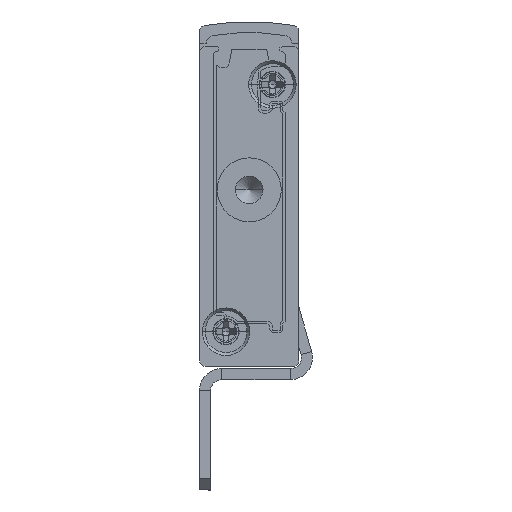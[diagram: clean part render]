
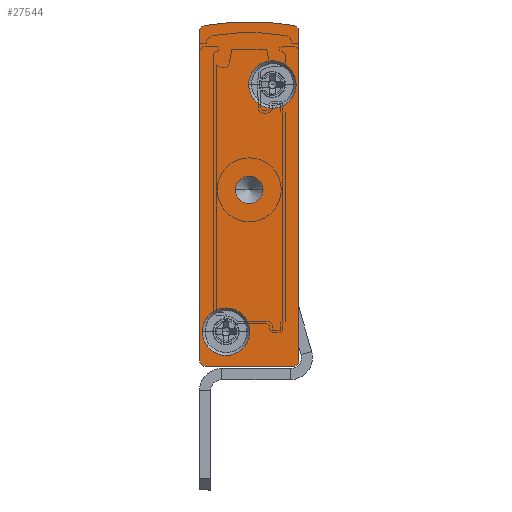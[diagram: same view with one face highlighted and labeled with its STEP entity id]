
A CAD part, front view. The second image highlights one B-rep face of the part: STEP entity #27544.
In plain terms, the highlighted planar face has unit normal (0, -1, 0).
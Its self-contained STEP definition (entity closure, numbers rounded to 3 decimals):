
#294 = CARTESIAN_POINT ( 'NONE',  ( -8.5, -2.5, 30.402 ) ) ;
#656 = CARTESIAN_POINT ( 'NONE',  ( -2.4, -2.5, 25.55 ) ) ;
#745 = EDGE_CURVE ( 'NONE', #33525, #13145, #36631, .T. ) ;
#791 = EDGE_CURVE ( 'NONE', #30130, #23964, #21107, .T. ) ;
#883 = CARTESIAN_POINT ( 'NONE',  ( -4.5, -2.5, 7.592 ) ) ;
#1101 = VECTOR ( 'NONE', #32769, 1000. ) ;
#1403 = CARTESIAN_POINT ( 'NONE',  ( -0.25, -2.5, 25.55 ) ) ;
#1749 = VERTEX_POINT ( 'NONE', #26748 ) ;
#2051 = EDGE_CURVE ( 'NONE', #1749, #7645, #24737, .T. ) ;
#2707 = ORIENTED_EDGE ( 'NONE', *, *, #3224, .F. ) ;
#2801 = ORIENTED_EDGE ( 'NONE', *, *, #2051, .F. ) ;
#2848 = DIRECTION ( 'NONE',  ( -1., 0., 0. ) ) ;
#3224 = EDGE_CURVE ( 'NONE', #7645, #4161, #37026, .T. ) ;
#3346 = EDGE_CURVE ( 'NONE', #7298, #37639, #32415, .T. ) ;
#3503 = CIRCLE ( 'NONE', #6938, 0.5 ) ;
#3514 = DIRECTION ( 'NONE',  ( 0., -1., 0. ) ) ;
#3664 = AXIS2_PLACEMENT_3D ( 'NONE', #34488, #10955, #20152 ) ;
#3764 = PLANE ( 'NONE',  #18415 ) ;
#4091 = AXIS2_PLACEMENT_3D ( 'NONE', #656, #26204, #20843 ) ;
#4161 = VERTEX_POINT ( 'NONE', #26468 ) ;
#4338 = ORIENTED_EDGE ( 'NONE', *, *, #3346, .F. ) ;
#5596 = EDGE_LOOP ( 'NONE', ( #8868, #36734 ) ) ;
#5602 = AXIS2_PLACEMENT_3D ( 'NONE', #8176, #28795, #37319 ) ;
#5640 = CIRCLE ( 'NONE', #19999, 2.15 ) ;
#6245 = CARTESIAN_POINT ( 'NONE',  ( -8.5, -2.5, 0. ) ) ;
#6598 = CARTESIAN_POINT ( 'NONE',  ( 0., -2.5, 30.402 ) ) ;
#6825 = CARTESIAN_POINT ( 'NONE',  ( -5.75, -2.5, 16. ) ) ;
#6890 = ORIENTED_EDGE ( 'NONE', *, *, #14394, .T. ) ;
#6938 = AXIS2_PLACEMENT_3D ( 'NONE', #24994, #19541, #23740 ) ;
#7217 = FACE_BOUND ( 'NONE', #35108, .T. ) ;
#7298 = VERTEX_POINT ( 'NONE', #6598 ) ;
#7645 = VERTEX_POINT ( 'NONE', #8525 ) ;
#8127 = CARTESIAN_POINT ( 'NONE',  ( -6.6, -2.5, 3.15 ) ) ;
#8176 = CARTESIAN_POINT ( 'NONE',  ( -6.6, -2.5, 3.15 ) ) ;
#8525 = CARTESIAN_POINT ( 'NONE',  ( -9., -2.5, 30.402 ) ) ;
#8868 = ORIENTED_EDGE ( 'NONE', *, *, #19866, .F. ) ;
#9026 = VERTEX_POINT ( 'NONE', #12347 ) ;
#9988 = EDGE_LOOP ( 'NONE', ( #12972, #37393 ) ) ;
#10734 = CARTESIAN_POINT ( 'NONE',  ( -4.55, -2.5, 25.55 ) ) ;
#10955 = DIRECTION ( 'NONE',  ( 0., 1., 0. ) ) ;
#11294 = DIRECTION ( 'NONE',  ( 0., 1., 0. ) ) ;
#11419 = EDGE_CURVE ( 'NONE', #4161, #9026, #12941, .T. ) ;
#11931 = CARTESIAN_POINT ( 'NONE',  ( 0., -2.5, 30.402 ) ) ;
#12347 = CARTESIAN_POINT ( 'NONE',  ( -0.408, -2.5, 30.893 ) ) ;
#12941 = CIRCLE ( 'NONE', #15813, 23.658 ) ;
#12972 = ORIENTED_EDGE ( 'NONE', *, *, #17841, .F. ) ;
#13145 = VERTEX_POINT ( 'NONE', #6825 ) ;
#13564 = AXIS2_PLACEMENT_3D ( 'NONE', #26322, #23225, #34809 ) ;
#14368 = ORIENTED_EDGE ( 'NONE', *, *, #29637, .F. ) ;
#14394 = EDGE_CURVE ( 'NONE', #13145, #33525, #28129, .T. ) ;
#14558 = DIRECTION ( 'NONE',  ( 0., 1., 0. ) ) ;
#14807 = ORIENTED_EDGE ( 'NONE', *, *, #19973, .F. ) ;
#15077 = CARTESIAN_POINT ( 'NONE',  ( -2.4, -2.5, 25.55 ) ) ;
#15429 = DIRECTION ( 'NONE',  ( 0., 1., 0. ) ) ;
#15466 = FACE_OUTER_BOUND ( 'NONE', #35514, .T. ) ;
#15718 = ORIENTED_EDGE ( 'NONE', *, *, #29559, .F. ) ;
#15804 = AXIS2_PLACEMENT_3D ( 'NONE', #24410, #15429, #27094 ) ;
#15813 = AXIS2_PLACEMENT_3D ( 'NONE', #883, #21305, #27167 ) ;
#15867 = CIRCLE ( 'NONE', #4091, 2.15 ) ;
#15884 = DIRECTION ( 'NONE',  ( 1., 0., 0. ) ) ;
#15897 = CARTESIAN_POINT ( 'NONE',  ( -8.5, -2.5, 30.402 ) ) ;
#16167 = VECTOR ( 'NONE', #24680, 1000. ) ;
#17393 = CARTESIAN_POINT ( 'NONE',  ( 0., -2.5, 0.5 ) ) ;
#17841 = EDGE_CURVE ( 'NONE', #23964, #30130, #5640, .T. ) ;
#18162 = AXIS2_PLACEMENT_3D ( 'NONE', #294, #11294, #2848 ) ;
#18189 = VERTEX_POINT ( 'NONE', #1403 ) ;
#18415 = AXIS2_PLACEMENT_3D ( 'NONE', #15897, #32978, #27027 ) ;
#18628 = AXIS2_PLACEMENT_3D ( 'NONE', #29162, #14558, #37708 ) ;
#19035 = ORIENTED_EDGE ( 'NONE', *, *, #29366, .F. ) ;
#19541 = DIRECTION ( 'NONE',  ( 0., 1., 0. ) ) ;
#19866 = EDGE_CURVE ( 'NONE', #18189, #20391, #15867, .T. ) ;
#19932 = CARTESIAN_POINT ( 'NONE',  ( -8.75, -2.5, 3.15 ) ) ;
#19973 = EDGE_CURVE ( 'NONE', #37639, #32850, #3503, .T. ) ;
#19999 = AXIS2_PLACEMENT_3D ( 'NONE', #8127, #28512, #34319 ) ;
#20152 = DIRECTION ( 'NONE',  ( -1., 0., 0. ) ) ;
#20169 = CARTESIAN_POINT ( 'NONE',  ( -0.5, -2.5, 0. ) ) ;
#20391 = VERTEX_POINT ( 'NONE', #10734 ) ;
#20580 = VECTOR ( 'NONE', #34058, 1000. ) ;
#20843 = DIRECTION ( 'NONE',  ( 1., 0., 0. ) ) ;
#21107 = CIRCLE ( 'NONE', #5602, 2.15 ) ;
#21305 = DIRECTION ( 'NONE',  ( 0., 1., 0. ) ) ;
#22494 = CARTESIAN_POINT ( 'NONE',  ( -8.5, -2.5, 0. ) ) ;
#22846 = ORIENTED_EDGE ( 'NONE', *, *, #745, .T. ) ;
#23225 = DIRECTION ( 'NONE',  ( 0., 1., 0. ) ) ;
#23332 = CIRCLE ( 'NONE', #15804, 0.5 ) ;
#23740 = DIRECTION ( 'NONE',  ( -1., 0., 0. ) ) ;
#23964 = VERTEX_POINT ( 'NONE', #35894 ) ;
#24410 = CARTESIAN_POINT ( 'NONE',  ( -0.5, -2.5, 30.402 ) ) ;
#24680 = DIRECTION ( 'NONE',  ( 0., 0., 1. ) ) ;
#24737 = LINE ( 'NONE', #30511, #16167 ) ;
#24994 = CARTESIAN_POINT ( 'NONE',  ( -0.5, -2.5, 0.5 ) ) ;
#25009 = FACE_BOUND ( 'NONE', #5596, .T. ) ;
#25135 = VERTEX_POINT ( 'NONE', #6245 ) ;
#26204 = DIRECTION ( 'NONE',  ( 0., -1., 0. ) ) ;
#26322 = CARTESIAN_POINT ( 'NONE',  ( -8.5, -2.5, 0.5 ) ) ;
#26468 = CARTESIAN_POINT ( 'NONE',  ( -8.592, -2.5, 30.893 ) ) ;
#26748 = CARTESIAN_POINT ( 'NONE',  ( -9., -2.5, 0.5 ) ) ;
#27027 = DIRECTION ( 'NONE',  ( -1., 0., 0. ) ) ;
#27094 = DIRECTION ( 'NONE',  ( -1., 0., 0. ) ) ;
#27167 = DIRECTION ( 'NONE',  ( -1., 0., 0. ) ) ;
#27544 = ADVANCED_FACE ( 'NONE', ( #25009, #31358, #15466, #7217 ), #3764, .F. ) ;
#28129 = CIRCLE ( 'NONE', #18628, 1.25 ) ;
#28326 = LINE ( 'NONE', #22494, #20580 ) ;
#28512 = DIRECTION ( 'NONE',  ( 0., -1., 0. ) ) ;
#28795 = DIRECTION ( 'NONE',  ( 0., -1., 0. ) ) ;
#28948 = CARTESIAN_POINT ( 'NONE',  ( -3.25, -2.5, 16. ) ) ;
#29162 = CARTESIAN_POINT ( 'NONE',  ( -4.5, -2.5, 16. ) ) ;
#29366 = EDGE_CURVE ( 'NONE', #9026, #7298, #23332, .T. ) ;
#29559 = EDGE_CURVE ( 'NONE', #32850, #25135, #28326, .T. ) ;
#29637 = EDGE_CURVE ( 'NONE', #25135, #1749, #37419, .T. ) ;
#30130 = VERTEX_POINT ( 'NONE', #19932 ) ;
#30511 = CARTESIAN_POINT ( 'NONE',  ( -9., -2.5, 30.402 ) ) ;
#30552 = EDGE_CURVE ( 'NONE', #20391, #18189, #35442, .T. ) ;
#31358 = FACE_BOUND ( 'NONE', #9988, .T. ) ;
#31449 = ORIENTED_EDGE ( 'NONE', *, *, #11419, .F. ) ;
#32415 = LINE ( 'NONE', #11931, #1101 ) ;
#32769 = DIRECTION ( 'NONE',  ( 0., 0., -1. ) ) ;
#32850 = VERTEX_POINT ( 'NONE', #20169 ) ;
#32978 = DIRECTION ( 'NONE',  ( 0., 1., 0. ) ) ;
#33336 = AXIS2_PLACEMENT_3D ( 'NONE', #15077, #3514, #15884 ) ;
#33525 = VERTEX_POINT ( 'NONE', #28948 ) ;
#34058 = DIRECTION ( 'NONE',  ( -1., 0., 0. ) ) ;
#34319 = DIRECTION ( 'NONE',  ( 1., 0., 0. ) ) ;
#34488 = CARTESIAN_POINT ( 'NONE',  ( -4.5, -2.5, 16. ) ) ;
#34809 = DIRECTION ( 'NONE',  ( -1., 0., 0. ) ) ;
#35108 = EDGE_LOOP ( 'NONE', ( #6890, #22846 ) ) ;
#35442 = CIRCLE ( 'NONE', #33336, 2.15 ) ;
#35514 = EDGE_LOOP ( 'NONE', ( #2707, #2801, #14368, #15718, #14807, #4338, #19035, #31449 ) ) ;
#35894 = CARTESIAN_POINT ( 'NONE',  ( -4.45, -2.5, 3.15 ) ) ;
#36631 = CIRCLE ( 'NONE', #3664, 1.25 ) ;
#36734 = ORIENTED_EDGE ( 'NONE', *, *, #30552, .F. ) ;
#37026 = CIRCLE ( 'NONE', #18162, 0.5 ) ;
#37319 = DIRECTION ( 'NONE',  ( 1., 0., 0. ) ) ;
#37393 = ORIENTED_EDGE ( 'NONE', *, *, #791, .F. ) ;
#37419 = CIRCLE ( 'NONE', #13564, 0.5 ) ;
#37639 = VERTEX_POINT ( 'NONE', #17393 ) ;
#37708 = DIRECTION ( 'NONE',  ( -1., 0., 0. ) ) ;
